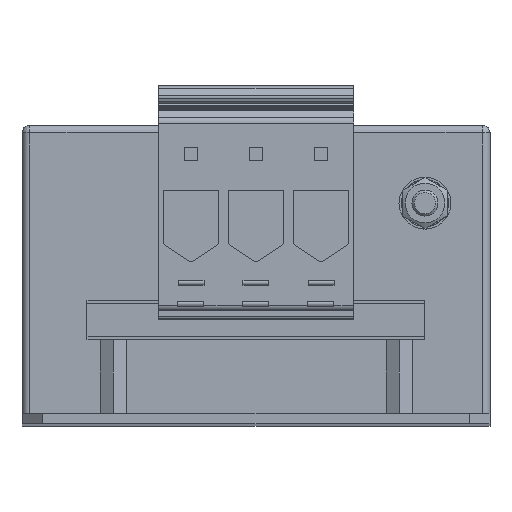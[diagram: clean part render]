
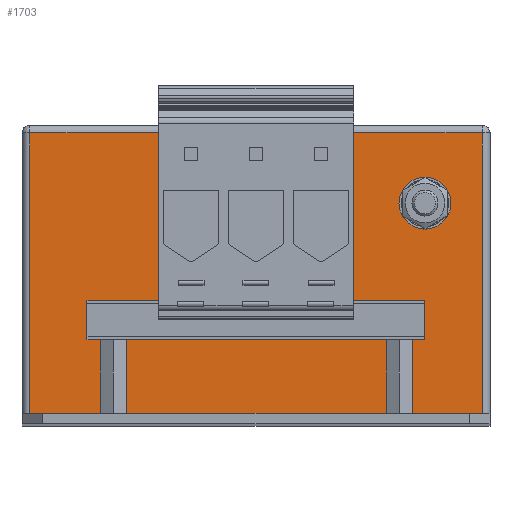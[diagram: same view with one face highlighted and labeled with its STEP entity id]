
A CAD part, top view. The second image highlights one B-rep face of the part: STEP entity #1703.
In plain terms, the highlighted planar face has unit normal (0, 0, 1).
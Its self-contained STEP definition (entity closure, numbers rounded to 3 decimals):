
#1614=CARTESIAN_POINT('',(56.75,27.5,180.0));
#1615=VERTEX_POINT('',#1614);
#1616=CARTESIAN_POINT('',(65.,27.5,180.0));
#1617=DIRECTION('',(0.0,0.0,-1.0));
#1618=DIRECTION('',(-1.0,0.0,0.0));
#1619=AXIS2_PLACEMENT_3D('',#1616,#1617,#1618);
#1620=CIRCLE('',#1619,8.25);
#1621=EDGE_CURVE('',#1615,#1615,#1620,.T.);
#1629=CARTESIAN_POINT('',(0.0,0.0,180.0));
#1630=DIRECTION('',(0.0,0.0,1.0));
#1631=DIRECTION('',(1.0,0.0,0.0));
#1632=AXIS2_PLACEMENT_3D('',#1629,#1630,#1631);
#1633=PLANE('',#1632);
#1634=CARTESIAN_POINT('',(-37.5,-2.873,180.));
#1635=VERTEX_POINT('',#1634);
#1636=CARTESIAN_POINT('',(37.5,-2.873,180.));
#1637=VERTEX_POINT('',#1636);
#1638=CARTESIAN_POINT('',(-37.5,-2.873,180.));
#1639=DIRECTION('',(1.0,0.0,0.0));
#1640=VECTOR('',#1639,75.);
#1641=LINE('',#1638,#1640);
#1642=EDGE_CURVE('',#1635,#1637,#1641,.T.);
#1643=ORIENTED_EDGE('',*,*,#1642,.F.);
#1644=CARTESIAN_POINT('',(-37.5,54.5,180.));
#1645=VERTEX_POINT('',#1644);
#1646=CARTESIAN_POINT('',(-37.5,-2.873,180.0));
#1647=DIRECTION('',(0.0,1.0,0.0));
#1648=VECTOR('',#1647,57.373);
#1649=LINE('',#1646,#1648);
#1650=EDGE_CURVE('',#1635,#1645,#1649,.T.);
#1651=ORIENTED_EDGE('',*,*,#1650,.T.);
#1652=CARTESIAN_POINT('',(-87.0,54.5,180.0));
#1653=VERTEX_POINT('',#1652);
#1654=CARTESIAN_POINT('',(-87.0,54.5,180.0));
#1655=DIRECTION('',(1.0,0.0,0.0));
#1656=VECTOR('',#1655,49.5);
#1657=LINE('',#1654,#1656);
#1658=EDGE_CURVE('',#1653,#1645,#1657,.T.);
#1659=ORIENTED_EDGE('',*,*,#1658,.F.);
#1660=CARTESIAN_POINT('',(-87.0,-53.5,180.0));
#1661=VERTEX_POINT('',#1660);
#1662=CARTESIAN_POINT('',(-87.0,-53.5,180.0));
#1663=DIRECTION('',(0.0,1.0,0.0));
#1664=VECTOR('',#1663,108.0);
#1665=LINE('',#1662,#1664);
#1666=EDGE_CURVE('',#1661,#1653,#1665,.T.);
#1667=ORIENTED_EDGE('',*,*,#1666,.F.);
#1668=CARTESIAN_POINT('',(87.0,-53.5,180.0));
#1669=VERTEX_POINT('',#1668);
#1670=CARTESIAN_POINT('',(-87.0,-53.5,180.0));
#1671=DIRECTION('',(1.0,0.0,0.0));
#1672=VECTOR('',#1671,174.0);
#1673=LINE('',#1670,#1672);
#1674=EDGE_CURVE('',#1661,#1669,#1673,.T.);
#1675=ORIENTED_EDGE('',*,*,#1674,.T.);
#1676=CARTESIAN_POINT('',(87.0,54.5,180.0));
#1677=VERTEX_POINT('',#1676);
#1678=CARTESIAN_POINT('',(87.0,54.5,180.0));
#1679=DIRECTION('',(0.0,-1.0,0.0));
#1680=VECTOR('',#1679,108.0);
#1681=LINE('',#1678,#1680);
#1682=EDGE_CURVE('',#1677,#1669,#1681,.T.);
#1683=ORIENTED_EDGE('',*,*,#1682,.F.);
#1684=CARTESIAN_POINT('',(37.5,54.5,180.));
#1685=VERTEX_POINT('',#1684);
#1686=CARTESIAN_POINT('',(37.5,54.5,180.0));
#1687=DIRECTION('',(1.0,0.0,0.0));
#1688=VECTOR('',#1687,49.5);
#1689=LINE('',#1686,#1688);
#1690=EDGE_CURVE('',#1685,#1677,#1689,.T.);
#1691=ORIENTED_EDGE('',*,*,#1690,.F.);
#1692=CARTESIAN_POINT('',(37.5,54.5,180.0));
#1693=DIRECTION('',(0.0,-1.0,0.0));
#1694=VECTOR('',#1693,57.373);
#1695=LINE('',#1692,#1694);
#1696=EDGE_CURVE('',#1685,#1637,#1695,.T.);
#1697=ORIENTED_EDGE('',*,*,#1696,.T.);
#1698=EDGE_LOOP('',(#1643,#1651,#1659,#1667,#1675,#1683,#1691,#1697));
#1699=FACE_OUTER_BOUND('',#1698,.T.);
#1700=ORIENTED_EDGE('',*,*,#1621,.T.);
#1701=EDGE_LOOP('',(#1700));
#1702=FACE_BOUND('',#1701,.T.);
#1703=ADVANCED_FACE('',(#1699,#1702),#1633,.T.);
